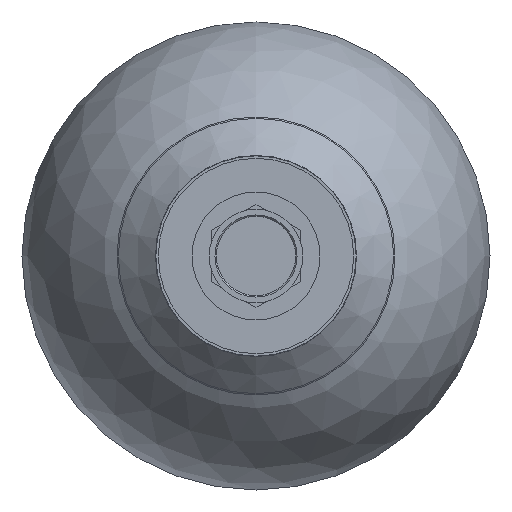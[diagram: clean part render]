
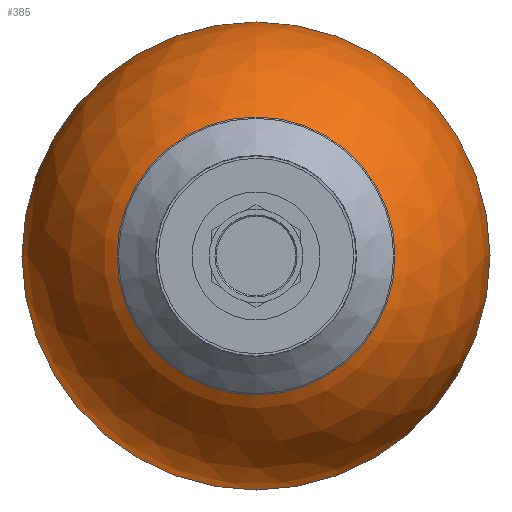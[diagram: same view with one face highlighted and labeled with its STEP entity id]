
A CAD part, front view. The second image highlights one B-rep face of the part: STEP entity #385.
In plain terms, the highlighted spherical face has radius 84.15 mm.
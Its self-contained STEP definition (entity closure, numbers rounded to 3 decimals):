
#275=CARTESIAN_POINT('',(-140.659,-104.8,0.));
#276=VERTEX_POINT('',#275);
#277=CARTESIAN_POINT('',(-140.659,-20.65,0.0));
#278=DIRECTION('',(1.0,0.0,0.0));
#279=DIRECTION('',(0.0,1.0,0.0));
#280=AXIS2_PLACEMENT_3D('',#277,#278,#279);
#281=CIRCLE('',#280,84.15);
#282=EDGE_CURVE('',#276,#276,#281,.T.);
#359=CARTESIAN_POINT('',(-221.605,2.35,0.0));
#360=VERTEX_POINT('',#359);
#361=CARTESIAN_POINT('',(-221.605,-20.65,0.0));
#362=DIRECTION('',(1.0,0.0,0.0));
#363=DIRECTION('',(0.0,1.0,0.0));
#364=AXIS2_PLACEMENT_3D('',#361,#362,#363);
#365=CIRCLE('',#364,23.);
#366=EDGE_CURVE('',#360,#360,#365,.T.);
#374=CARTESIAN_POINT('',(-140.659,-20.65,0.0));
#375=DIRECTION('',(1.0,0.0,0.0));
#376=DIRECTION('',(0.0,-1.0,0.0));
#377=AXIS2_PLACEMENT_3D('',#374,#375,#376);
#378=SPHERICAL_SURFACE('',#377,84.15);
#379=ORIENTED_EDGE('',*,*,#282,.F.);
#380=EDGE_LOOP('',(#379));
#381=FACE_OUTER_BOUND('',#380,.T.);
#382=ORIENTED_EDGE('',*,*,#366,.T.);
#383=EDGE_LOOP('',(#382));
#384=FACE_BOUND('',#383,.T.);
#385=ADVANCED_FACE('',(#381,#384),#378,.T.);
